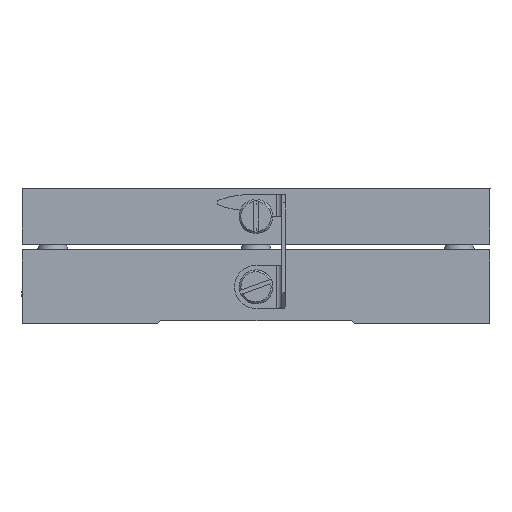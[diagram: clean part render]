
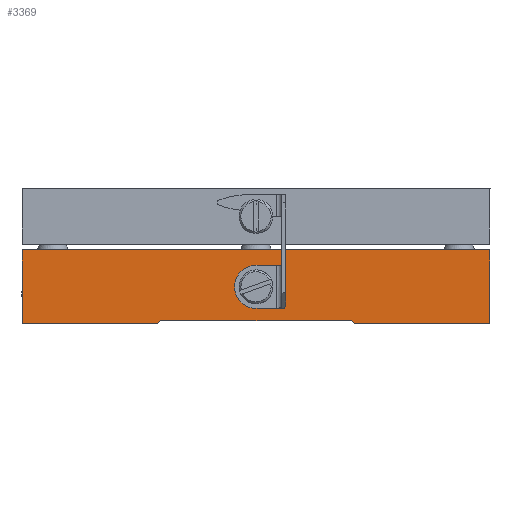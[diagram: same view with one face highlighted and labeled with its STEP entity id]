
A CAD part, front view. The second image highlights one B-rep face of the part: STEP entity #3369.
In plain terms, the highlighted planar face has unit normal (0, -1, 0).
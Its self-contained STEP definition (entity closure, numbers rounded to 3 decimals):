
#2698 = EDGE_CURVE ( 'NONE', #2808, #5814, #8505, .T. ) ;
#2709 = EDGE_CURVE ( 'NONE', #3813, #3815, #8553, .T. ) ;
#2717 = EDGE_CURVE ( 'NONE', #5811, #5796, #8537, .T. ) ;
#2782 = VERTEX_POINT ( 'NONE', #8769 ) ;
#2787 = EDGE_CURVE ( 'NONE', #5822, #2782, #8806, .T. ) ;
#2808 = VERTEX_POINT ( 'NONE', #8895 ) ;
#2967 = EDGE_CURVE ( 'NONE', #2969, #2808, #9294, .T. ) ;
#2969 = VERTEX_POINT ( 'NONE', #9286 ) ;
#3287 = ORIENTED_EDGE ( 'NONE', *, *, #2967, .T. ) ;
#3290 = ORIENTED_EDGE ( 'NONE', *, *, #2698, .T. ) ;
#3331 = ORIENTED_EDGE ( 'NONE', *, *, #5813, .F. ) ;
#3333 = ORIENTED_EDGE ( 'NONE', *, *, #2717, .T. ) ;
#3336 = ORIENTED_EDGE ( 'NONE', *, *, #5795, .F. ) ;
#3338 = ORIENTED_EDGE ( 'NONE', *, *, #2787, .T. ) ;
#3341 = ORIENTED_EDGE ( 'NONE', *, *, #3342, .F. ) ;
#3342 = EDGE_CURVE ( 'NONE', #3344, #2782, #9823, .T. ) ;
#3344 = VERTEX_POINT ( 'NONE', #9819 ) ;
#3346 = ORIENTED_EDGE ( 'NONE', *, *, #3348, .F. ) ;
#3348 = EDGE_CURVE ( 'NONE', #2969, #3344, #9818, .T. ) ;
#3349 = EDGE_LOOP ( 'NONE', ( #3350, #3352 ) ) ;
#3350 = ORIENTED_EDGE ( 'NONE', *, *, #3980, .T. ) ;
#3352 = ORIENTED_EDGE ( 'NONE', *, *, #2709, .T. ) ;
#3369 = ADVANCED_FACE ( 'NONE', ( #9795, #9794 ), #9793, .T. ) ;
#3370 = EDGE_LOOP ( 'NONE', ( #3287, #3290, #3331, #3333, #3336, #3338, #3341, #3346 ) ) ;
#3813 = VERTEX_POINT ( 'NONE', #10622 ) ;
#3815 = VERTEX_POINT ( 'NONE', #10621 ) ;
#3980 = EDGE_CURVE ( 'NONE', #3815, #3813, #10939, .T. ) ;
#5795 = EDGE_CURVE ( 'NONE', #5822, #5796, #14348, .T. ) ;
#5796 = VERTEX_POINT ( 'NONE', #14344 ) ;
#5811 = VERTEX_POINT ( 'NONE', #14379 ) ;
#5813 = EDGE_CURVE ( 'NONE', #5811, #5814, #14378, .T. ) ;
#5814 = VERTEX_POINT ( 'NONE', #14374 ) ;
#5822 = VERTEX_POINT ( 'NONE', #14425 ) ;
#8502 = DIRECTION ( 'NONE',  ( 1., 0., 0. ) ) ;
#8503 = VECTOR ( 'NONE', #8502, 1000. ) ;
#8504 = CARTESIAN_POINT ( 'NONE',  ( 76., 0., 0. ) ) ;
#8505 = LINE ( 'NONE', #8504, #8503 ) ;
#8529 = DIRECTION ( 'NONE',  ( 1., 0., 0. ) ) ;
#8530 = VECTOR ( 'NONE', #8529, 1000. ) ;
#8531 = CARTESIAN_POINT ( 'NONE',  ( 76., 0., 0.5 ) ) ;
#8537 = LINE ( 'NONE', #8531, #8530 ) ;
#8549 = DIRECTION ( 'NONE',  ( -1., 0., 0. ) ) ;
#8550 = DIRECTION ( 'NONE',  ( 0., 1., 0. ) ) ;
#8551 = CARTESIAN_POINT ( 'NONE',  ( 38., 0., 6. ) ) ;
#8552 = AXIS2_PLACEMENT_3D ( 'NONE', #8551, #8550, #8549 ) ;
#8553 = CIRCLE ( 'NONE', #8552, 3. ) ;
#8769 = CARTESIAN_POINT ( 'NONE',  ( 76., 0., 0. ) ) ;
#8803 = DIRECTION ( 'NONE',  ( 1., 0., 0. ) ) ;
#8804 = VECTOR ( 'NONE', #8803, 1000. ) ;
#8805 = CARTESIAN_POINT ( 'NONE',  ( 76., 0., 0. ) ) ;
#8806 = LINE ( 'NONE', #8805, #8804 ) ;
#8895 = CARTESIAN_POINT ( 'NONE',  ( 0., 0., 0. ) ) ;
#9286 = CARTESIAN_POINT ( 'NONE',  ( 0., 0., 12. ) ) ;
#9291 = DIRECTION ( 'NONE',  ( 0., 0., -1. ) ) ;
#9292 = VECTOR ( 'NONE', #9291, 1000. ) ;
#9293 = CARTESIAN_POINT ( 'NONE',  ( 0., 0., 0. ) ) ;
#9294 = LINE ( 'NONE', #9293, #9292 ) ;
#9792 = CARTESIAN_POINT ( 'NONE',  ( 76., 0., 0. ) ) ;
#9793 = PLANE ( 'NONE',  #9855 ) ;
#9794 = FACE_BOUND ( 'NONE', #3349, .T. ) ;
#9795 = FACE_OUTER_BOUND ( 'NONE', #3370, .T. ) ;
#9815 = DIRECTION ( 'NONE',  ( 1., 0., 0. ) ) ;
#9816 = VECTOR ( 'NONE', #9815, 1000. ) ;
#9817 = CARTESIAN_POINT ( 'NONE',  ( 38., 0., 12. ) ) ;
#9818 = LINE ( 'NONE', #9817, #9816 ) ;
#9819 = CARTESIAN_POINT ( 'NONE',  ( 76., 0., 12. ) ) ;
#9820 = DIRECTION ( 'NONE',  ( 0., 0., -1. ) ) ;
#9821 = VECTOR ( 'NONE', #9820, 1000. ) ;
#9822 = CARTESIAN_POINT ( 'NONE',  ( 76., 0., 0. ) ) ;
#9823 = LINE ( 'NONE', #9822, #9821 ) ;
#9853 = DIRECTION ( 'NONE',  ( 1., 0., 0. ) ) ;
#9854 = DIRECTION ( 'NONE',  ( 0., -1., 0. ) ) ;
#9855 = AXIS2_PLACEMENT_3D ( 'NONE', #9792, #9854, #9853 ) ;
#10621 = CARTESIAN_POINT ( 'NONE',  ( 35., 0., 6. ) ) ;
#10622 = CARTESIAN_POINT ( 'NONE',  ( 41., 0., 6. ) ) ;
#10936 = DIRECTION ( 'NONE',  ( 0., 1., 0. ) ) ;
#10937 = CARTESIAN_POINT ( 'NONE',  ( 38., 0., 6. ) ) ;
#10938 = AXIS2_PLACEMENT_3D ( 'NONE', #10937, #10936, #10993 ) ;
#10939 = CIRCLE ( 'NONE', #10938, 3. ) ;
#10993 = DIRECTION ( 'NONE',  ( -1., 0., 0. ) ) ;
#14344 = CARTESIAN_POINT ( 'NONE',  ( 53.5, 0., 0.5 ) ) ;
#14345 = DIRECTION ( 'NONE',  ( -0.707, 0., 0.707 ) ) ;
#14346 = VECTOR ( 'NONE', #14345, 1000. ) ;
#14347 = CARTESIAN_POINT ( 'NONE',  ( 53.75, 0., 0.25 ) ) ;
#14348 = LINE ( 'NONE', #14347, #14346 ) ;
#14374 = CARTESIAN_POINT ( 'NONE',  ( 22., 0., 0. ) ) ;
#14375 = DIRECTION ( 'NONE',  ( -0.707, 0., -0.707 ) ) ;
#14376 = VECTOR ( 'NONE', #14375, 1000. ) ;
#14377 = CARTESIAN_POINT ( 'NONE',  ( 22.25, 0., 0.25 ) ) ;
#14378 = LINE ( 'NONE', #14377, #14376 ) ;
#14379 = CARTESIAN_POINT ( 'NONE',  ( 22.5, 0., 0.5 ) ) ;
#14425 = CARTESIAN_POINT ( 'NONE',  ( 54., 0., 0. ) ) ;
